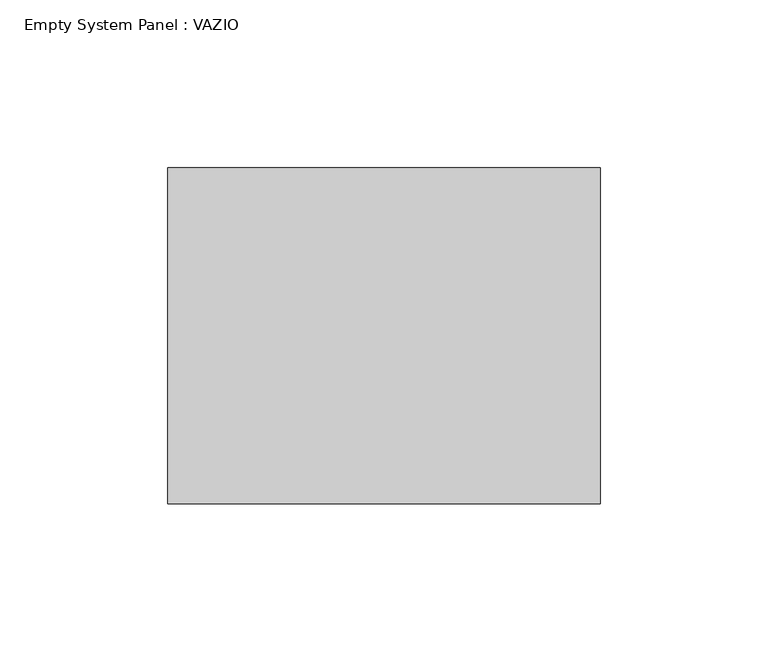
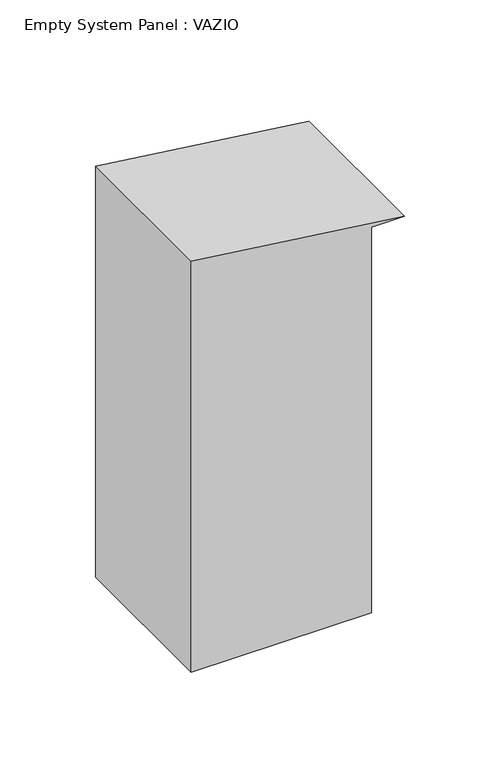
"""IFC4 building model written with IfcOpenShell, lengths in millimetres: plate geometry, Empty System Panel : VAZIO."""

import ifcopenshell
import ifcopenshell.guid

model = None  # the IFC model being written
_history = None  # IfcOwnerHistory: only IFC2X3 demands one
_inside = {}  # id of a spatial element -> (the spatial element, [elements in it])
_under = {}  # id of a project, library or spatial element -> (it, [spatial elements below it])
_declared = {}  # id of a project -> (the project, [libraries it declares])
_typed = {}  # id of a type object -> (the type object, [elements of that type])
_made_of = {}  # id of a material, layer set ... -> (it, [elements and type objects made of it])


def new_model(schema):
    """Start an empty IFC model of exactly this schema.

    Asked for "IFC4X3", IfcOpenShell would pick the latest addendum, in which some entities
    have other attributes; the version numbers below select the first issue.
    IFC2X3 requires an IfcOwnerHistory on every rooted entity: one is made here for all.
    """
    global model, _history
    if schema == "IFC4X3":
        model = ifcopenshell.file(schema_version=(4, 3, 0, 0))
    else:
        model = ifcopenshell.file(schema=schema)
    _inside.clear()
    _under.clear()
    _declared.clear()
    _typed.clear()
    _made_of.clear()
    _history = None
    if model.schema == "IFC2X3":
        org = make("IfcOrganization", Name="unknown")
        user = make(
            "IfcPersonAndOrganization",
            ThePerson=make("IfcPerson", FamilyName="unknown"),
            TheOrganization=org,
        )
        app = make(
            "IfcApplication",
            ApplicationDeveloper=org,
            Version="unknown",
            ApplicationFullName="unknown",
            ApplicationIdentifier="unknown",
        )
        _history = make(
            "IfcOwnerHistory",
            OwningUser=user,
            OwningApplication=app,
            ChangeAction="ADDED",
            CreationDate=0,
        )
    return model


def make(cls, **values):
    """One entity of the class cls with the attributes given. An attribute that is None is left unset."""
    return model.create_entity(
        cls, **{name: value for name, value in values.items() if value is not None}
    )


def rooted(cls, **values):
    """An entity with a GlobalId (a new one), such as an element, a storey or a relation."""
    return make(cls, GlobalId=ifcopenshell.guid.new(), OwnerHistory=_history, **values)


def si_unit(unit_type, name, prefix=None):
    """IfcSIUnit, for example si_unit("LENGTHUNIT", "METRE", prefix="MILLI")."""
    return make("IfcSIUnit", UnitType=unit_type, Prefix=prefix, Name=name)


def assignment(units):
    """IfcUnitAssignment: the units of a project."""
    return None if units is None else make("IfcUnitAssignment", Units=units)


def point(xyz):
    """IfcCartesianPoint."""
    return None if xyz is None else make("IfcCartesianPoint", Coordinates=xyz)


def direction(xyz):
    """IfcDirection."""
    return None if xyz is None else make("IfcDirection", DirectionRatios=xyz)


def frame(location, z_axis=None, x_axis=None):
    """IfcAxis2Placement3D, a coordinate frame: its origin and axes. An axis left out is left unset."""
    return make(
        "IfcAxis2Placement3D",
        Location=point(location),
        Axis=direction(z_axis),
        RefDirection=direction(x_axis),
    )


def frame_2d(location, x_axis=None):
    """IfcAxis2Placement2D, a coordinate frame in the plane: its origin and x axis."""
    return make(
        "IfcAxis2Placement2D", Location=point(location), RefDirection=direction(x_axis)
    )


def origin():
    """The frame at (0, 0, 0) with its axes left unset."""
    return frame((0.0, 0.0, 0.0))


def place(relative_to, where):
    """IfcLocalPlacement: puts the frame where relative to a parent placement (None: the world)."""
    return make(
        "IfcLocalPlacement", PlacementRelTo=relative_to, RelativePlacement=where
    )


def context(
    kind, dimensions, precision=None, world=None, true_north=None, identifier=None
):
    """IfcGeometricRepresentationContext, for example the 3D "Model" context."""
    return make(
        "IfcGeometricRepresentationContext",
        ContextIdentifier=identifier,
        ContextType=kind,
        CoordinateSpaceDimension=dimensions,
        Precision=precision,
        WorldCoordinateSystem=world,
        TrueNorth=true_north,
    )


def project(units=None, contexts=None):
    """IfcProject with its units and contexts."""
    return rooted(
        "IfcProject",
        Name="project",
        RepresentationContexts=contexts,
        UnitsInContext=assignment(units),
    )


def spatial(cls, under=None, at=None, **own):
    """A site, building, storey or space (cls), placed at a placement, below another one or the project."""
    s = rooted(cls, ObjectPlacement=at, **own)
    if under is not None:
        _under.setdefault(under.id(), (under, []))[1].append(s)
    return s


def polyline(points):
    """IfcPolyline through the points."""
    return make("IfcPolyline", Points=[point(p) for p in points])


def circle_curve(where, radius):
    """IfcCircle in the frame where."""
    return make("IfcCircle", Position=where, Radius=radius)


def trimmed(basis, trim1, trim2, sense, master):
    """IfcTrimmedCurve: the piece of a basis curve between two trims."""
    return make(
        "IfcTrimmedCurve",
        BasisCurve=basis,
        Trim1=trim1,
        Trim2=trim2,
        SenseAgreement=sense,
        MasterRepresentation=master,
    )


def segment(curve, same_sense, transition):
    """IfcCompositeCurveSegment."""
    return make(
        "IfcCompositeCurveSegment",
        Transition=transition,
        SameSense=same_sense,
        ParentCurve=curve,
    )


def composite_curve(segments, self_intersect=None):
    """IfcCompositeCurve: segments joined end to end."""
    return make("IfcCompositeCurve", Segments=segments, SelfIntersect=self_intersect)


def outline(outer, holes=None, kind="AREA"):
    """IfcArbitraryClosedProfileDef: a profile drawn as a closed curve; with holes, ...WithVoids."""
    if holes is None:
        return make("IfcArbitraryClosedProfileDef", ProfileType=kind, OuterCurve=outer)
    return make(
        "IfcArbitraryProfileDefWithVoids",
        ProfileType=kind,
        OuterCurve=outer,
        InnerCurves=holes,
    )


def extrude(swept, where, along, depth):
    """IfcExtrudedAreaSolid: the profile swept, set in the frame where, extruded along a direction by depth."""
    return make(
        "IfcExtrudedAreaSolid",
        SweptArea=swept,
        Position=where,
        ExtrudedDirection=direction(along),
        Depth=depth,
    )


def shape(context_of_items, identifier, shape_type, items):
    """IfcShapeRepresentation: the items that make up one representation, for example the "Body"."""
    return make(
        "IfcShapeRepresentation",
        ContextOfItems=context_of_items,
        RepresentationIdentifier=identifier,
        RepresentationType=shape_type,
        Items=items,
    )


def source(mapping_origin, context_of_items, identifier, shape_type, items):
    """IfcRepresentationMap: a shape defined once, which mapped items show again and again."""
    return make(
        "IfcRepresentationMap",
        MappingOrigin=mapping_origin,
        MappedRepresentation=shape(context_of_items, identifier, shape_type, items),
    )


def transform(
    local_origin,
    x_axis=None,
    y_axis=None,
    z_axis=None,
    scale=None,
    scale2=None,
    scale3=None,
    uniform=True,
):
    """IfcCartesianTransformationOperator3D, or its non-uniform kind. x_axis, y_axis, z_axis: its Axis1, 2, 3."""
    if uniform:
        return make(
            "IfcCartesianTransformationOperator3D",
            Axis1=direction(x_axis),
            Axis2=direction(y_axis),
            LocalOrigin=point(local_origin),
            Scale=scale,
            Axis3=direction(z_axis),
        )
    return make(
        "IfcCartesianTransformationOperator3DnonUniform",
        Axis1=direction(x_axis),
        Axis2=direction(y_axis),
        LocalOrigin=point(local_origin),
        Scale=scale,
        Axis3=direction(z_axis),
        Scale2=scale2,
        Scale3=scale3,
    )


def mapped(mapping_source, mapping_target):
    """IfcMappedItem: shows the shape of a source again, moved by a transform."""
    return make(
        "IfcMappedItem", MappingSource=mapping_source, MappingTarget=mapping_target
    )


def made_of(thing, what):
    """Note that an element or type object is made of a material, layer set ...; save() writes the relation."""
    if what is not None:
        _made_of.setdefault(what.id(), (what, []))[1].append(thing)
    return thing


def element(
    cls,
    number,
    at=None,
    inside=None,
    cuts=None,
    type_object=None,
    material=None,
    context=None,
    identifier="Body",
    shape_type=None,
    held_by="IfcProductDefinitionShape",
    body=None,
    shapes=None,
    **own,
):
    """One element of the class cls, such as IfcWall. Its Tag is "e" and its number.

    at: its placement. inside: the storey or other place that contains it. cuts: it is an
    opening in that element (IfcRelVoidsElement). A single representation is given by context,
    identifier, shape_type and body (its items); several are given by shapes. held_by: the class
    of the entity that holds the representations. save() writes the other relations.
    """
    e = rooted(cls, Tag="e%d" % number, ObjectPlacement=at, **own)
    if body is not None:
        shapes = [shape(context, identifier, shape_type, body)]
    if shapes is not None:
        e.Representation = make(held_by, Representations=shapes)
    if inside is not None:
        _inside.setdefault(inside.id(), (inside, []))[1].append(e)
    if cuts is not None:
        rooted(
            "IfcRelVoidsElement", RelatingBuildingElement=cuts, RelatedOpeningElement=e
        )
    if type_object is not None:
        _typed.setdefault(type_object.id(), (type_object, []))[1].append(e)
    return made_of(e, material)


def aggregate(whole, parts):
    """IfcRelAggregates: a whole, such as a stair, and the parts it consists of."""
    return rooted("IfcRelAggregates", RelatingObject=whole, RelatedObjects=parts)


def save(model, path):
    """Write the relations noted so far, then the file.

    IfcRelAggregates (storeys below a building ...), IfcRelContainedInSpatialStructure (elements
    in a storey), IfcRelDefinesByType, IfcRelAssociatesMaterial and IfcRelDeclares: one each for
    every whole, place, type object, material and project.
    """
    for whole, parts in _under.values():
        aggregate(whole, parts)
    for where, things in _inside.values():
        rooted(
            "IfcRelContainedInSpatialStructure",
            RelatedElements=things,
            RelatingStructure=where,
        )
    for kind, things in _typed.values():
        rooted("IfcRelDefinesByType", RelatedObjects=things, RelatingType=kind)
    for what, things in _made_of.values():
        rooted("IfcRelAssociatesMaterial", RelatedObjects=things, RelatingMaterial=what)
    for by, libraries in _declared.values():
        rooted("IfcRelDeclares", RelatingContext=by, RelatedDefinitions=libraries)
    model.write(path)


def empty_system_panel_vazio_4967844e(model_context):
    return source(origin(), model_context, "Body", "SweptSolid", [
        extrude(outline(composite_curve([segment(polyline([(0.0, -64.3902439), (0.0, 44.3902439), (245.9861386, 44.3902439), (245.9861386, 64.3902439)]), True, "CONTINUOUS"), segment(trimmed(circle_curve(frame_2d((-2933.8559746, -401.9512195)), 3213.8559746), [point((245.9861386, 64.3902439))], [point((262.2233131, -64.3902439))], False, "CARTESIAN"), True, "CONTINUOUS"), segment(polyline([(262.2233131, -64.3902439), (0.0, -64.3902439)]), True, "CONTINUOUS")], self_intersect=False)), frame((0.0, -50.0, 0.0), z_axis=(0.0, 1.0, 0.0), x_axis=(0.0, 0.0, 1.0)), (0.0, 0.0, 1.0), 100.0),
    ])


if __name__ == "__main__":
    model = new_model("IFC4")
    model_context = context("Model", 3, world=origin())
    ifc_project = project(units=[si_unit("LENGTHUNIT", "METRE", prefix="MILLI")], contexts=[model_context])
    site = spatial("IfcSite", under=ifc_project)
    building = spatial("IfcBuilding", under=site)
    placement = place(None, origin())
    empty_system_panel_vazio_shape = empty_system_panel_vazio_4967844e(model_context)
    element("IfcPlate", 1, ObjectType="Empty System Panel : VAZIO", at=placement, inside=building, context=model_context, shape_type="MappedRepresentation", body=[
        mapped(empty_system_panel_vazio_shape, transform((0.0, 0.0, 0.0), x_axis=(1.0, 0.0, 0.0), y_axis=(0.0, 1.0, 0.0), z_axis=(0.0, 0.0, 1.0))),
    ])
    save(model, "model.ifc")
